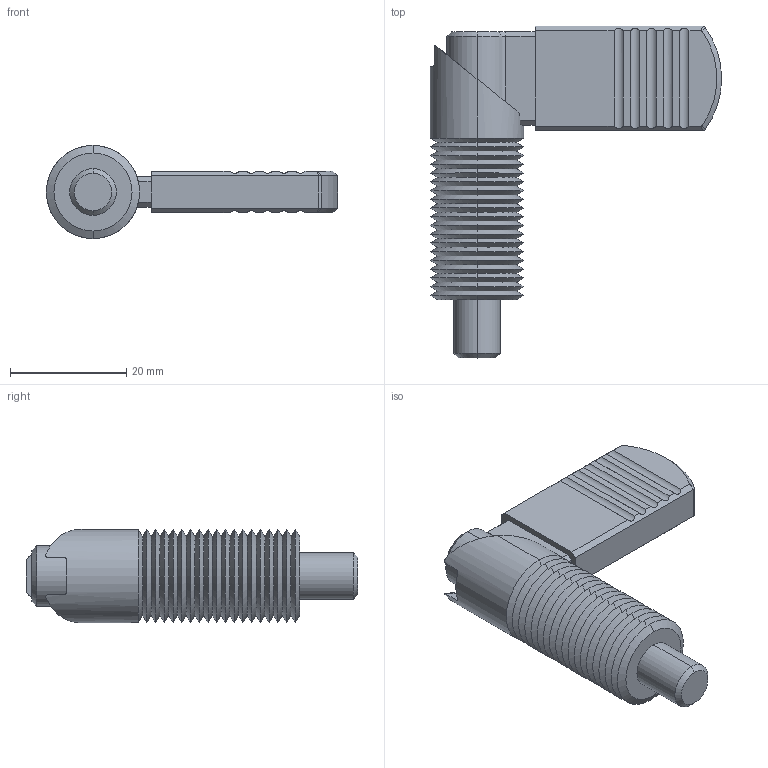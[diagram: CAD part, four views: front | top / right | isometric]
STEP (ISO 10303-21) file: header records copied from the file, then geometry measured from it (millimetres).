
FILE_DESCRIPTION (( 'STEP AP203' ), '1' );
FILE_NAME ('32501.W0367.step', '2016-02-10T17:22:45', ( 'User' ), ( '' ), 'SwSTEP 2.0', 'SolidWorks 2009', '' );
FILE_SCHEMA (( 'CONFIG_CONTROL_DESIGN' ));
Length unit declared in the file: millimetre
Products named in the file (4): 32501.W0367; Part1_32501.W0367; Part2_32501.W0367; Part3_32501.W0367
Assembly tree (3 placements, depth 2):
  32501.W0367
    Part1_32501.W0367
    Part2_32501.W0367
    Part3_32501.W0367
Bounding box: 50 x 57 x 16 mm (x, y, z)
Volume: 9117.7 mm3; surface area: 10082.2 mm2
Topology: 3 solids, 3 shells, 204 faces, 481 edges, 287 vertices
Faces by surface type: cone 91, cylinder 56, plane 53, bspline 4
Entity records: 6306 total; most frequent: CARTESIAN_POINT 1386, ORIENTED_EDGE 962, DIRECTION 936, EDGE_CURVE 481, AXIS2_PLACEMENT_3D 339, VERTEX_POINT 287, VECTOR 258, LINE 258
